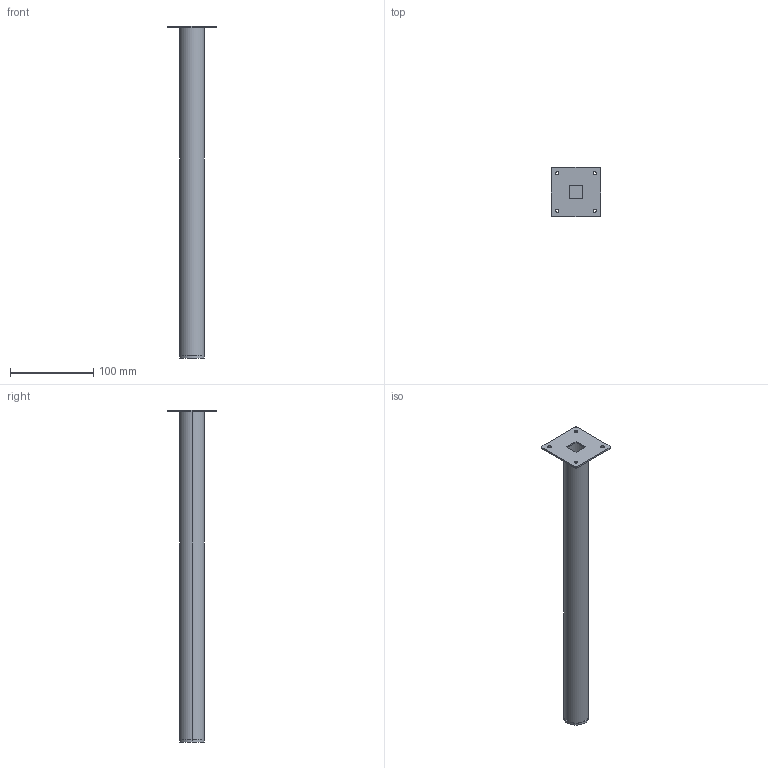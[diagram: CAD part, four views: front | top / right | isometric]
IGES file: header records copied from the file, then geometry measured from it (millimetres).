
Start section: Data from XPlus IGES,  Spatial Corp. Copyright (c) 1999-2004
Global section: file name: 1226.igs; native system:  By Spatial Corp.; preprocessor: XPlus ACIS/IGES 3.0; author: Noname; organization: Noname; date: 20140207.105353; units: millimetre
Bounding box: 60 x 60 x 400 mm (x, y, z)
Surface area: 80949.6 mm2 (no closed solid volume)
Topology: 0 solids, 0 shells, 35 faces, 168 edges, 168 vertices
Faces by surface type: revolution 20, extrusion 15
